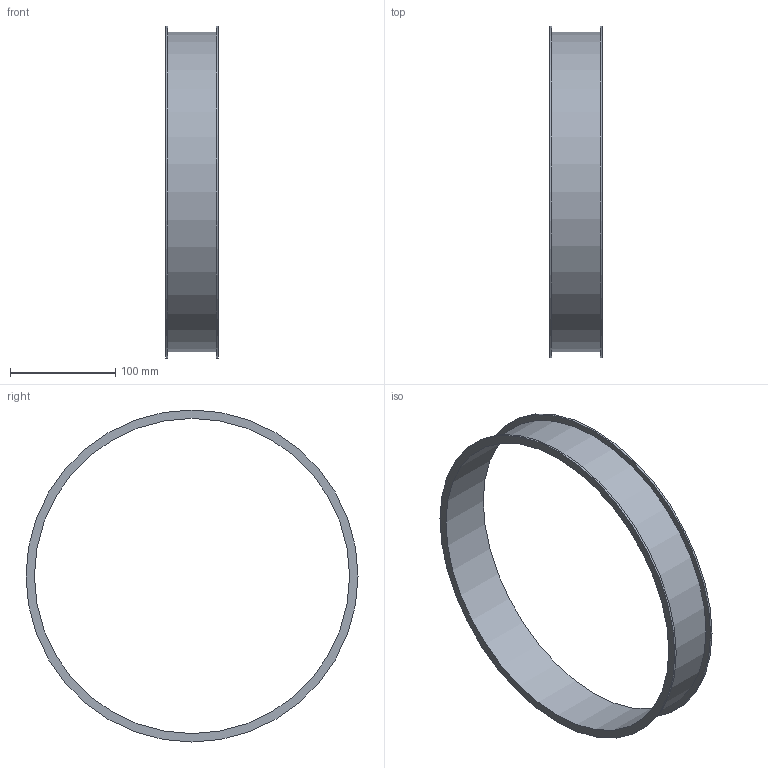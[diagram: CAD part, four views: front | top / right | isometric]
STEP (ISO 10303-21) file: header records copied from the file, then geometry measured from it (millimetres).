
FILE_DESCRIPTION((''),'2;1');
FILE_NAME('U:\Wolfgang\Marcel-3D\fertig\Kapitel 1\3021005.stp','2010-05-31T11:36:28',('TK2'),(''),'Autodesk Inventor 2010','Autodesk Inventor 2010','');
FILE_SCHEMA(('AUTOMOTIVE_DESIGN { 1 0 10303 214 1 1 1 1 }'));
Length unit declared in the file: millimetre
Products named in the file (1): 3021005
Bounding box: 50 x 315 x 315 mm (x, y, z)
Volume: 117860 mm3; surface area: 121793.3 mm2
Topology: 1 solids, 1 shells, 8 faces, 12 edges, 8 vertices
Faces by surface type: cylinder 4, plane 4
Full cylindrical faces by diameter (mm): 299 x1, 303 x1, 315 x2
Entity records: 194 total; most frequent: DIRECTION 34, CARTESIAN_POINT 25, AXIS2_PLACEMENT_3D 17, ORIENTED_EDGE 16, EDGE_LOOP 16, VERTEX_POINT 8, CIRCLE 8, EDGE_CURVE 8
